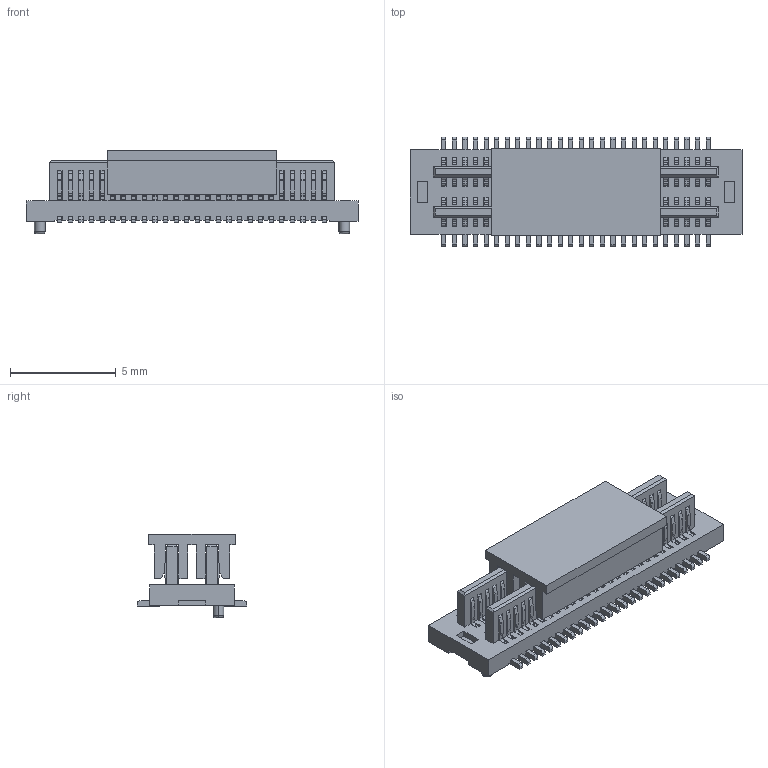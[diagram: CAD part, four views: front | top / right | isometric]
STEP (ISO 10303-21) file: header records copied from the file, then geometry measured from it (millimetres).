
FILE_DESCRIPTION(('CATIA V5 STEP Exchange'),'2;1');
FILE_NAME('F:\黄富鸿\板对板\PBB05\公座\H1.0\编带+盖\HC-PBB05-2-52-M-H1.0-G1-R-P-04（BTB0.5 双槽 公座 立贴 带柱 编带+盖）-HCTL.stp','2025-12-09T01:45:26+00:00',('none'),('none'),'CATIA Version 5 Release 20 GA (IN-10)','CATIA V5 STEP AP203','none');
FILE_SCHEMA(('CONFIG_CONTROL_DESIGN'));
Products named in the file (1): Part2
Bounding box: 15.7 x 5.2 x 3.95 mm (x, y, z)
Volume: 122.5 mm3; surface area: 950.9 mm2
Topology: 54 solids, 54 shells, 2992 faces, 9142 edges, 6056 vertices
Faces by surface type: plane 1944, cylinder 1044, torus 4
Entity records: 87463 total; most frequent: ORIENTED_EDGE 18284, CARTESIAN_POINT 16224, DIRECTION 9736, EDGE_CURVE 9142, VECTOR 6838, LINE 6838, VERTEX_POINT 6056, EDGE_LOOP 2998
